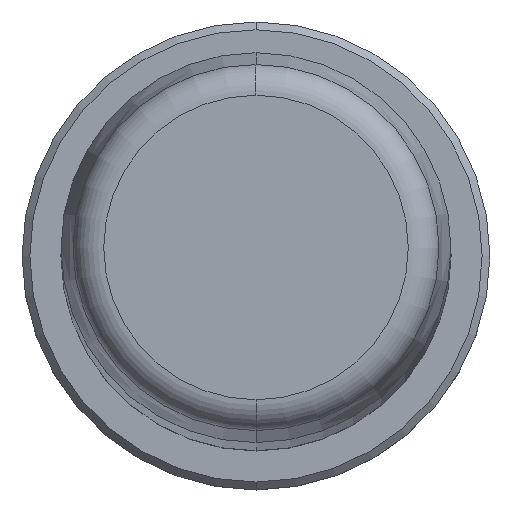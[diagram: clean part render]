
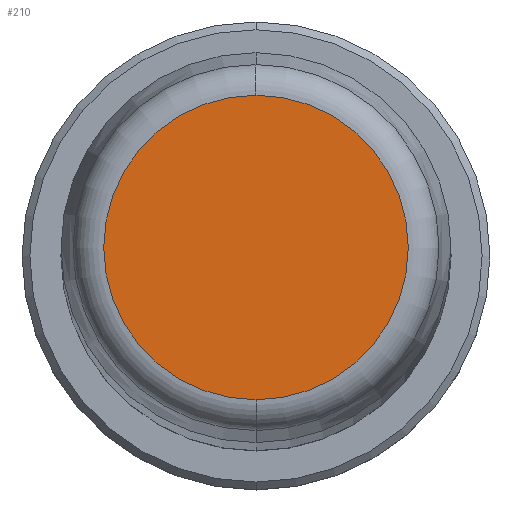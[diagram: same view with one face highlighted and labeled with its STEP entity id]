
A CAD part, top view. The second image highlights one B-rep face of the part: STEP entity #210.
In plain terms, the highlighted planar face has unit normal (0, 0, 1).
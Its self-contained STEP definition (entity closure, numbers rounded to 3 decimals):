
#1=CARTESIAN_POINT('',(0.,0.,315.));
#2=DIRECTION('',(0.,0.,-1.));
#3=DIRECTION('',(0.,-1.,0.));
#4=AXIS2_PLACEMENT_3D('',#1,#2,#3);
#6=CARTESIAN_POINT('',(0.,0.,315.));
#7=DIRECTION('',(0.,0.,-1.));
#8=DIRECTION('',(0.,1.,0.));
#9=AXIS2_PLACEMENT_3D('',#6,#7,#8);
#183=CARTESIAN_POINT('',(0.,-9.764,315.));
#184=CARTESIAN_POINT('',(0.,9.764,315.));
#185=VERTEX_POINT('',#183);
#186=VERTEX_POINT('',#184);
#199=CARTESIAN_POINT('',(0.,0.,315.));
#200=DIRECTION('',(0.,0.,1.));
#201=DIRECTION('',(0.,-1.,0.));
#202=AXIS2_PLACEMENT_3D('',#199,#200,#201);
#203=PLANE('',#202);
#205=ORIENTED_EDGE('',*,*,#204,.T.);
#207=ORIENTED_EDGE('',*,*,#206,.T.);
#208=EDGE_LOOP('',(#205,#207));
#209=FACE_OUTER_BOUND('',#208,.F.);
#210=ADVANCED_FACE('',(#209),#203,.T.);
#5=CIRCLE('',#4,9.764);
#10=CIRCLE('',#9,9.764);
#204=EDGE_CURVE('',#185,#186,#5,.T.);
#206=EDGE_CURVE('',#186,#185,#10,.T.);
